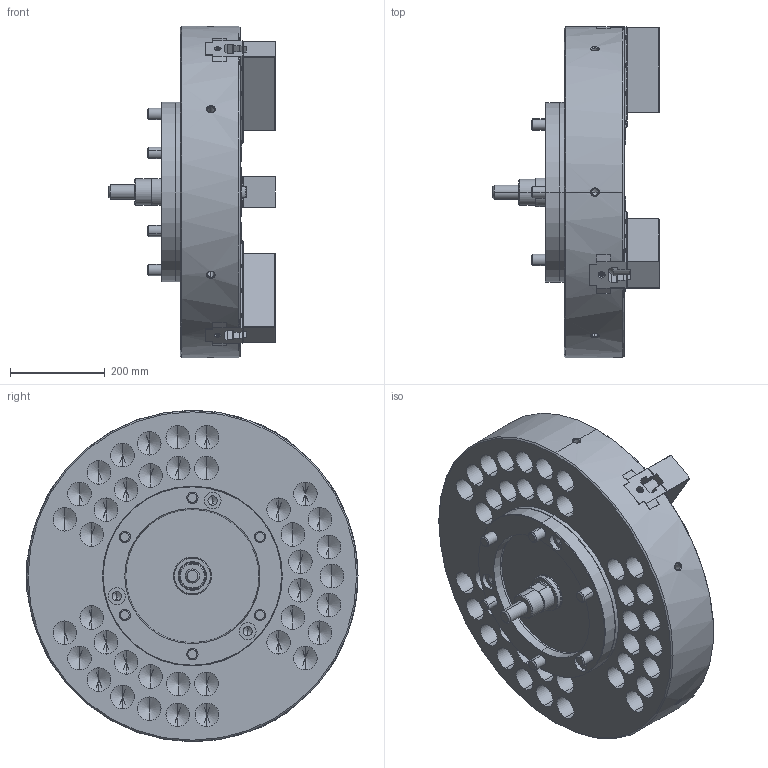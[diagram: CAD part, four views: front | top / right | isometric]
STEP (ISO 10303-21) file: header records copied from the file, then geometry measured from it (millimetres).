
FILE_DESCRIPTION (( 'STEP AP214' ), '1' );
FILE_NAME ('NV28C15_UC.STEP', '2019-12-19T07:31:41', ( '' ), ( '' ), 'SwSTEP 2.0', 'SolidWorks 2017', '' );
FILE_SCHEMA (( 'AUTOMOTIVE_DESIGN' ));
Length unit declared in the file: millimetre
Products named in the file (5): 結合; 0030120060; 61P418538_俿僫僢僩; P32262_ソフトジョー; NV28C15_UC
Assembly tree (16 placements, depth 2):
  NV28C15_UC
    P32262_ソフトジョー  x3
    61P418538_俿僫僢僩  x6
    0030120060  x6
    結合
Bounding box: 352 x 701.6 x 700 mm (x, y, z)
Volume: 49071749.7 mm3; surface area: 2011650.5 mm2
Topology: 16 solids, 16 shells, 5338 faces, 14749 edges, 9442 vertices
Faces by surface type: plane 4318, cylinder 479, cone 439, torus 96, sphere 6
Entity records: 135674 total; most frequent: CARTESIAN_POINT 26586, ORIENTED_EDGE 23334, DIRECTION 21350, EDGE_CURVE 11667, VECTOR 9868, LINE 9868, VERTEX_POINT 7553, AXIS2_PLACEMENT_3D 5741
